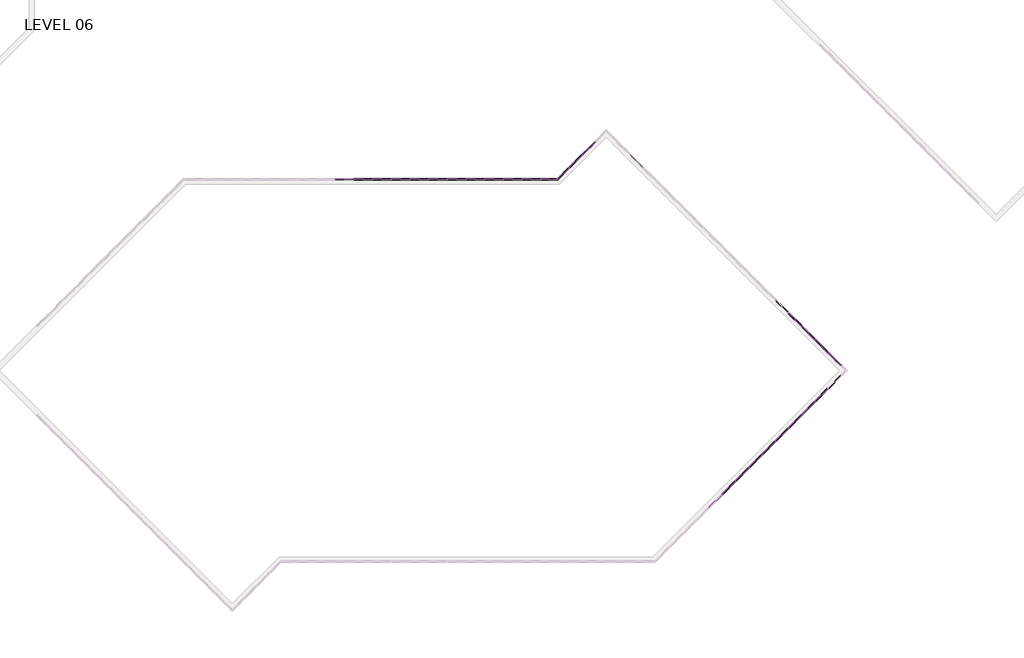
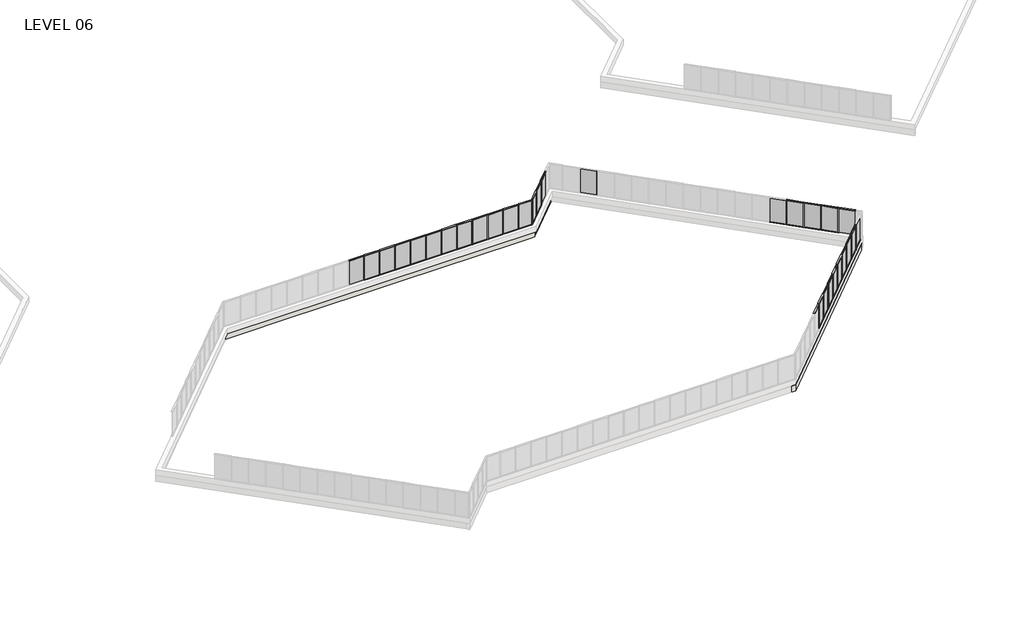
# One storey, part 8 of 17: 82 members, 30 plates, 3 walls.
"""IFC4 building model written with IfcOpenShell, lengths in millimetres."""

from ifc_helpers import new_model, si_unit, frame, origin, place, context, project, spatial, polyline, outline, extrude, faceted_brep, transform, mapped, element, save
from components import member_5247f267, member_e44af9ab, member_800970d4, member_45eb7f2e, plate_67294edd, plate_9c66726c, plate_129ab9d0

model = new_model("IFC4")

# Units and contexts
model_context = context("Model", 3, world=origin())
ifc_project = project(units=[si_unit("LENGTHUNIT", "METRE", prefix="MILLI")], contexts=[model_context])

# Site, building, storey
site = spatial("IfcSite", under=ifc_project)
building = spatial("IfcBuilding", under=site)
storey = spatial("IfcBuildingStorey", under=building, Name="LEVEL 06", Elevation=19596.1)

# Members
placement = place(None, origin())
member_shape = member_5247f267(model_context)
element("IfcMember", 1, ObjectType="Rectangular Mullion : 2\" x 4.5\" rectangular", at=placement, inside=storey, context=model_context, shape_type="MappedRepresentation", body=[
    mapped(member_shape, transform((55642.3943146, 1508.7210511, 19596.1), x_axis=(0.0, 0.0, -1.0), y_axis=(0.7071067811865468, -0.7071067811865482, 0.0), z_axis=(-0.7071067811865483, -0.7071067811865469, 0.0))),
])
element("IfcMember", 2, ObjectType="Rectangular Mullion : 2\" x 4.5\" rectangular", at=placement, inside=storey, context=model_context, shape_type="MappedRepresentation", body=[
    mapped(member_shape, transform((56720.0250491, 2586.3517856, 19596.1), x_axis=(0.0, 0.0, -1.0), y_axis=(0.7071067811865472, -0.7071067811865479, 0.0), z_axis=(-0.7071067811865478, -0.7071067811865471, 0.0))),
])
element("IfcMember", 3, ObjectType="Rectangular Mullion : 2\" x 4.5\" rectangular", at=placement, inside=storey, context=model_context, shape_type="MappedRepresentation", body=[
    mapped(member_shape, transform((57797.6557836, 3663.9825201, 19596.1), x_axis=(0.0, 0.0, -1.0), y_axis=(0.7071067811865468, -0.7071067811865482, 0.0), z_axis=(-0.7071067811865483, -0.7071067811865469, 0.0))),
])
element("IfcMember", 4, ObjectType="Rectangular Mullion : 2\" x 4.5\" rectangular", at=placement, inside=storey, context=model_context, shape_type="MappedRepresentation", body=[
    mapped(member_shape, transform((63185.8094563, 9052.1361928, 19596.1), x_axis=(0.0, 0.0, -1.0), y_axis=(0.7071067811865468, -0.7071067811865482, 0.0), z_axis=(-0.7071067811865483, -0.7071067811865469, 0.0))),
])
element("IfcMember", 5, ObjectType="Rectangular Mullion : 2\" x 4.5\" rectangular", at=placement, inside=storey, context=model_context, shape_type="MappedRepresentation", body=[
    mapped(member_shape, transform((54564.7635801, 431.0903165, 19596.1), x_axis=(0.0, 0.0, -1.0), y_axis=(0.7071067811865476, -0.7071067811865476, 0.0), z_axis=(-0.7071067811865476, -0.7071067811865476, 0.0))),
])
element("IfcMember", 6, ObjectType="Rectangular Mullion : 2\" x 4.5\" rectangular", at=placement, inside=storey, context=model_context, shape_type="MappedRepresentation", body=[
    mapped(member_shape, transform((59952.9172527, 5819.2439892, 19596.1), x_axis=(0.0, 0.0, -1.0), y_axis=(0.7071067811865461, -0.7071067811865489, 0.0), z_axis=(-0.7071067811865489, -0.7071067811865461, 0.0))),
])
element("IfcMember", 7, ObjectType="Rectangular Mullion : 2\" x 4.5\" rectangular", at=placement, inside=storey, context=model_context, shape_type="MappedRepresentation", body=[
    mapped(member_shape, transform((58875.2865182, 4741.6132547, 19596.1), x_axis=(0.0, 0.0, -1.0), y_axis=(0.7071067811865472, -0.7071067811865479, 0.0), z_axis=(-0.7071067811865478, -0.7071067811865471, 0.0))),
])
element("IfcMember", 8, ObjectType="Rectangular Mullion : 2\" x 4.5\" rectangular", at=placement, inside=storey, context=model_context, shape_type="MappedRepresentation", body=[
    mapped(member_shape, transform((61030.5479872, 6896.8747237, 19596.1), x_axis=(0.0, 0.0, -1.0), y_axis=(0.7071067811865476, -0.7071067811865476, 0.0), z_axis=(-0.7071067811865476, -0.7071067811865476, 0.0))),
])
element("IfcMember", 9, ObjectType="Rectangular Mullion : 2\" x 4.5\" rectangular", at=placement, inside=storey, context=model_context, shape_type="MappedRepresentation", body=[
    mapped(member_shape, transform((62108.1787218, 7974.5054582, 19596.1), x_axis=(0.0, 0.0, -1.0), y_axis=(0.7071067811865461, -0.7071067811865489, 0.0), z_axis=(-0.7071067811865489, -0.7071067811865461, 0.0))),
])
element("IfcMember", 10, ObjectType="Rectangular Mullion : 2\" x 4.5\" rectangular", at=placement, inside=storey, context=model_context, shape_type="MappedRepresentation", body=[
    mapped(member_shape, transform((63149.7097592, 11972.0792486, 19596.1), x_axis=(0.0, 0.0, -1.0), y_axis=(0.707106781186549, 0.7071067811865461, 0.0), z_axis=(0.707106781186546, -0.7071067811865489, 0.0))),
])
element("IfcMember", 11, ObjectType="Rectangular Mullion : 2\" x 4.5\" rectangular", at=placement, inside=storey, context=model_context, shape_type="MappedRepresentation", body=[
    mapped(member_shape, transform((62072.0790246, 13049.7099831, 19596.1), x_axis=(0.0, 0.0, -1.0), y_axis=(0.7071067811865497, 0.7071067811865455, 0.0), z_axis=(0.7071067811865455, -0.7071067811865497, 0.0))),
])
element("IfcMember", 12, ObjectType="Rectangular Mullion : 2\" x 4.5\" rectangular", at=placement, inside=storey, context=model_context, shape_type="MappedRepresentation", body=[
    mapped(member_shape, transform((60994.4482901, 14127.3407176, 19596.1), x_axis=(0.0, 0.0, -1.0), y_axis=(0.707106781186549, 0.7071067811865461, 0.0), z_axis=(0.707106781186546, -0.7071067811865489, 0.0))),
])
element("IfcMember", 13, ObjectType="Rectangular Mullion : 2\" x 4.5\" rectangular", at=placement, inside=storey, context=model_context, shape_type="MappedRepresentation", body=[
    mapped(member_shape, transform((59916.8175556, 15204.9714522, 19596.1), x_axis=(0.0, 0.0, -1.0), y_axis=(0.707106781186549, 0.7071067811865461, 0.0), z_axis=(0.707106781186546, -0.7071067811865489, 0.0))),
])
element("IfcMember", 14, ObjectType="Rectangular Mullion : 2\" x 4.5\" rectangular", at=placement, inside=storey, context=model_context, shape_type="MappedRepresentation", body=[
    mapped(member_shape, transform((43110.3767799, 28100.2657877, 19596.1), x_axis=(0.0, 0.0, -1.0), y_axis=(-0.7071067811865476, 0.7071067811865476, 0.0), z_axis=(0.7071067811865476, 0.7071067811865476, 0.0))),
])
element("IfcMember", 15, ObjectType="Rectangular Mullion : 2\" x 4.5\" rectangular", at=placement, inside=storey, context=model_context, shape_type="MappedRepresentation", body=[
    mapped(member_shape, transform((24517.35, 26080.1328721, 19596.1), x_axis=(0.0, 0.0, -1.0), y_axis=(0.0, -1.0, 0.0), z_axis=(-1.0, 0.0, 0.0))),
])
element("IfcMember", 16, ObjectType="Rectangular Mullion : 2\" x 4.5\" rectangular", at=placement, inside=storey, context=model_context, shape_type="MappedRepresentation", body=[
    mapped(member_shape, transform((27565.35, 26080.1328721, 19596.1), x_axis=(0.0, 0.0, -1.0), y_axis=(0.0, -1.0, 0.0), z_axis=(-1.0, 0.0, 0.0))),
])
element("IfcMember", 17, ObjectType="Rectangular Mullion : 2\" x 4.5\" rectangular", at=placement, inside=storey, context=model_context, shape_type="MappedRepresentation", body=[
    mapped(member_shape, transform((29089.35, 26080.1328721, 19596.1), x_axis=(0.0, 0.0, -1.0), y_axis=(0.0, -1.0, 0.0), z_axis=(-1.0, 0.0, 0.0))),
])
element("IfcMember", 18, ObjectType="Rectangular Mullion : 2\" x 4.5\" rectangular", at=placement, inside=storey, context=model_context, shape_type="MappedRepresentation", body=[
    mapped(member_shape, transform((30613.35, 26080.1328721, 19596.1), x_axis=(0.0, 0.0, -1.0), y_axis=(0.0, -1.0, 0.0), z_axis=(-1.0, 0.0, 0.0))),
])
element("IfcMember", 19, ObjectType="Rectangular Mullion : 2\" x 4.5\" rectangular", at=placement, inside=storey, context=model_context, shape_type="MappedRepresentation", body=[
    mapped(member_shape, transform((32137.35, 26080.1328721, 19596.1), x_axis=(0.0, 0.0, -1.0), y_axis=(0.0, -1.0, 0.0), z_axis=(-1.0, 0.0, 0.0))),
])
element("IfcMember", 20, ObjectType="Rectangular Mullion : 2\" x 4.5\" rectangular", at=placement, inside=storey, context=model_context, shape_type="MappedRepresentation", body=[
    mapped(member_shape, transform((35185.35, 26080.1328721, 19596.1), x_axis=(0.0, 0.0, -1.0), y_axis=(0.0, -1.0, 0.0), z_axis=(-1.0, 0.0, 0.0))),
])
element("IfcMember", 21, ObjectType="Rectangular Mullion : 2\" x 4.5\" rectangular", at=placement, inside=storey, context=model_context, shape_type="MappedRepresentation", body=[
    mapped(member_shape, transform((36709.35, 26080.1328721, 19596.1), x_axis=(0.0, 0.0, -1.0), y_axis=(0.0, -1.0, 0.0), z_axis=(-1.0, 0.0, 0.0))),
])
element("IfcMember", 22, ObjectType="Rectangular Mullion : 2\" x 4.5\" rectangular", at=placement, inside=storey, context=model_context, shape_type="MappedRepresentation", body=[
    mapped(member_shape, transform((38233.35, 26080.1328721, 19596.1), x_axis=(0.0, 0.0, -1.0), y_axis=(0.0, -1.0, 0.0), z_axis=(-1.0, 0.0, 0.0))),
])
element("IfcMember", 23, ObjectType="Rectangular Mullion : 2\" x 4.5\" rectangular", at=placement, inside=storey, context=model_context, shape_type="MappedRepresentation", body=[
    mapped(member_shape, transform((33661.35, 26080.1328721, 19596.1), x_axis=(0.0, 0.0, -1.0), y_axis=(0.0, -1.0, 0.0), z_axis=(-1.0, 0.0, 0.0))),
])
element("IfcMember", 24, ObjectType="Rectangular Mullion : 2\" x 4.5\" rectangular", at=placement, inside=storey, context=model_context, shape_type="MappedRepresentation", body=[
    mapped(member_shape, transform((26041.35, 26080.1328721, 19596.1), x_axis=(0.0, 0.0, -1.0), y_axis=(0.0, -1.0, 0.0), z_axis=(-1.0, 0.0, 0.0))),
])
element("IfcMember", 25, ObjectType="Rectangular Mullion : 2\" x 4.5\" rectangular", at=placement, inside=storey, context=model_context, shape_type="MappedRepresentation", body=[
    mapped(member_shape, transform((55606.4732901, 1472.8000266, 22186.9), x_axis=(0.0, 0.0, 1.0), y_axis=(0.7071067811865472, -0.7071067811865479, 0.0), z_axis=(0.7071067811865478, 0.7071067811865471, 0.0))),
])
element("IfcMember", 26, ObjectType="Rectangular Mullion : 2\" x 4.5\" rectangular", at=placement, inside=storey, context=model_context, shape_type="MappedRepresentation", body=[
    mapped(member_shape, transform((56684.1040246, 2550.4307611, 22186.9), x_axis=(0.0, 0.0, 1.0), y_axis=(0.7071067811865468, -0.7071067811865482, 0.0), z_axis=(0.7071067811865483, 0.7071067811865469, 0.0))),
])
element("IfcMember", 27, ObjectType="Rectangular Mullion : 2\" x 4.5\" rectangular", at=placement, inside=storey, context=model_context, shape_type="MappedRepresentation", body=[
    mapped(member_shape, transform((57761.7347592, 3628.0614956, 22186.9), x_axis=(0.0, 0.0, 1.0), y_axis=(0.7071067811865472, -0.7071067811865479, 0.0), z_axis=(0.7071067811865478, 0.7071067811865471, 0.0))),
])
element("IfcMember", 28, ObjectType="Rectangular Mullion : 2\" x 4.5\" rectangular", at=placement, inside=storey, context=model_context, shape_type="MappedRepresentation", body=[
    mapped(member_shape, transform((63149.8884318, 9016.2151683, 22186.9), x_axis=(0.0, 0.0, 1.0), y_axis=(0.7071067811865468, -0.7071067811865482, 0.0), z_axis=(0.7071067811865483, 0.7071067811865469, 0.0))),
])
element("IfcMember", 29, ObjectType="Rectangular Mullion : 2\" x 4.5\" rectangular", at=placement, inside=storey, context=model_context, shape_type="MappedRepresentation", body=[
    mapped(member_shape, transform((54528.8425556, 395.1692921, 22186.9), x_axis=(0.0, 0.0, 1.0), y_axis=(0.7071067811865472, -0.7071067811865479, 0.0), z_axis=(0.7071067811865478, 0.7071067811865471, 0.0))),
])
element("IfcMember", 30, ObjectType="Rectangular Mullion : 2\" x 4.5\" rectangular", at=placement, inside=storey, context=model_context, shape_type="MappedRepresentation", body=[
    mapped(member_shape, transform((59916.9962282, 5783.3229647, 22186.9), x_axis=(0.0, 0.0, 1.0), y_axis=(0.7071067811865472, -0.7071067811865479, 0.0), z_axis=(0.7071067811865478, 0.7071067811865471, 0.0))),
])
element("IfcMember", 31, ObjectType="Rectangular Mullion : 2\" x 4.5\" rectangular", at=placement, inside=storey, context=model_context, shape_type="MappedRepresentation", body=[
    mapped(member_shape, transform((58839.3654937, 4705.6922302, 22186.9), x_axis=(0.0, 0.0, 1.0), y_axis=(0.7071067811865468, -0.7071067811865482, 0.0), z_axis=(0.7071067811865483, 0.7071067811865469, 0.0))),
])
element("IfcMember", 32, ObjectType="Rectangular Mullion : 2\" x 4.5\" rectangular", at=placement, inside=storey, context=model_context, shape_type="MappedRepresentation", body=[
    mapped(member_shape, transform((60994.6269627, 6860.9536992, 22186.9), x_axis=(0.0, 0.0, 1.0), y_axis=(0.7071067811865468, -0.7071067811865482, 0.0), z_axis=(0.7071067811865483, 0.7071067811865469, 0.0))),
])
element("IfcMember", 33, ObjectType="Rectangular Mullion : 2\" x 4.5\" rectangular", at=placement, inside=storey, context=model_context, shape_type="MappedRepresentation", body=[
    mapped(member_shape, transform((62072.2576973, 7938.5844338, 22186.9), x_axis=(0.0, 0.0, 1.0), y_axis=(0.7071067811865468, -0.7071067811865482, 0.0), z_axis=(0.7071067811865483, 0.7071067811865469, 0.0))),
])
element("IfcMember", 34, ObjectType="Rectangular Mullion : 2\" x 4.5\" rectangular", at=placement, inside=storey, context=model_context, shape_type="MappedRepresentation", body=[
    mapped(member_shape, transform((63185.6307836, 11936.1582241, 22186.9), x_axis=(0.0, 0.0, 1.0), y_axis=(0.707106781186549, 0.7071067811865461, 0.0), z_axis=(-0.707106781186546, 0.7071067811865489, 0.0))),
])
element("IfcMember", 35, ObjectType="Rectangular Mullion : 2\" x 4.5\" rectangular", at=placement, inside=storey, context=model_context, shape_type="MappedRepresentation", body=[
    mapped(member_shape, transform((62108.0000491, 13013.7889586, 22186.9), x_axis=(0.0, 0.0, 1.0), y_axis=(0.7071067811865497, 0.7071067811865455, 0.0), z_axis=(-0.7071067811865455, 0.7071067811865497, 0.0))),
])
element("IfcMember", 36, ObjectType="Rectangular Mullion : 2\" x 4.5\" rectangular", at=placement, inside=storey, context=model_context, shape_type="MappedRepresentation", body=[
    mapped(member_shape, transform((61030.3693146, 14091.4196932, 22186.9), x_axis=(0.0, 0.0, 1.0), y_axis=(0.7071067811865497, 0.7071067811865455, 0.0), z_axis=(-0.7071067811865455, 0.7071067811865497, 0.0))),
])
element("IfcMember", 37, ObjectType="Rectangular Mullion : 2\" x 4.5\" rectangular", at=placement, inside=storey, context=model_context, shape_type="MappedRepresentation", body=[
    mapped(member_shape, transform((59952.7385801, 15169.0504277, 22186.9), x_axis=(0.0, 0.0, 1.0), y_axis=(0.707106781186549, 0.7071067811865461, 0.0), z_axis=(-0.707106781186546, 0.7071067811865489, 0.0))),
])
element("IfcMember", 38, ObjectType="Rectangular Mullion : 2\" x 4.5\" rectangular", at=placement, inside=storey, context=model_context, shape_type="MappedRepresentation", body=[
    mapped(member_shape, transform((42068.6670699, 27058.5560776, 22186.9), x_axis=(0.0, 0.0, 1.0), y_axis=(-0.7071067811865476, 0.7071067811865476, 0.0), z_axis=(-0.7071067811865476, -0.7071067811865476, 0.0))),
])
element("IfcMember", 39, ObjectType="Rectangular Mullion : 2\" x 4.5\" rectangular", at=placement, inside=storey, context=model_context, shape_type="MappedRepresentation", body=[
    mapped(member_shape, transform((43146.2978044, 28136.1868122, 22186.9), x_axis=(0.0, 0.0, 1.0), y_axis=(-0.7071067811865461, 0.7071067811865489, 0.0), z_axis=(-0.7071067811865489, -0.7071067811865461, 0.0))),
])
element("IfcMember", 40, ObjectType="Rectangular Mullion : 2\" x 4.5\" rectangular", at=placement, inside=storey, context=model_context, shape_type="MappedRepresentation", body=[
    mapped(member_shape, transform((24466.55, 26080.1328721, 22186.9), x_axis=(0.0, 0.0, 1.0), y_axis=(0.0, -1.0, 0.0), z_axis=(1.0, 0.0, 0.0))),
])
element("IfcMember", 41, ObjectType="Rectangular Mullion : 2\" x 4.5\" rectangular", at=placement, inside=storey, context=model_context, shape_type="MappedRepresentation", body=[
    mapped(member_shape, transform((27514.55, 26080.1328721, 22186.9), x_axis=(0.0, 0.0, 1.0), y_axis=(0.0, -1.0, 0.0), z_axis=(1.0, 0.0, 0.0))),
])
element("IfcMember", 42, ObjectType="Rectangular Mullion : 2\" x 4.5\" rectangular", at=placement, inside=storey, context=model_context, shape_type="MappedRepresentation", body=[
    mapped(member_shape, transform((29038.55, 26080.1328721, 22186.9), x_axis=(0.0, 0.0, 1.0), y_axis=(0.0, -1.0, 0.0), z_axis=(1.0, 0.0, 0.0))),
])
element("IfcMember", 43, ObjectType="Rectangular Mullion : 2\" x 4.5\" rectangular", at=placement, inside=storey, context=model_context, shape_type="MappedRepresentation", body=[
    mapped(member_shape, transform((30562.55, 26080.1328721, 22186.9), x_axis=(0.0, 0.0, 1.0), y_axis=(0.0, -1.0, 0.0), z_axis=(1.0, 0.0, 0.0))),
])
element("IfcMember", 44, ObjectType="Rectangular Mullion : 2\" x 4.5\" rectangular", at=placement, inside=storey, context=model_context, shape_type="MappedRepresentation", body=[
    mapped(member_shape, transform((32086.55, 26080.1328721, 22186.9), x_axis=(0.0, 0.0, 1.0), y_axis=(0.0, -1.0, 0.0), z_axis=(1.0, 0.0, 0.0))),
])
element("IfcMember", 45, ObjectType="Rectangular Mullion : 2\" x 4.5\" rectangular", at=placement, inside=storey, context=model_context, shape_type="MappedRepresentation", body=[
    mapped(member_shape, transform((35134.55, 26080.1328721, 22186.9), x_axis=(0.0, 0.0, 1.0), y_axis=(0.0, -1.0, 0.0), z_axis=(1.0, 0.0, 0.0))),
])
element("IfcMember", 46, ObjectType="Rectangular Mullion : 2\" x 4.5\" rectangular", at=placement, inside=storey, context=model_context, shape_type="MappedRepresentation", body=[
    mapped(member_shape, transform((36658.55, 26080.1328721, 22186.9), x_axis=(0.0, 0.0, 1.0), y_axis=(0.0, -1.0, 0.0), z_axis=(1.0, 0.0, 0.0))),
])
element("IfcMember", 47, ObjectType="Rectangular Mullion : 2\" x 4.5\" rectangular", at=placement, inside=storey, context=model_context, shape_type="MappedRepresentation", body=[
    mapped(member_shape, transform((38182.55, 26080.1328721, 22186.9), x_axis=(0.0, 0.0, 1.0), y_axis=(0.0, -1.0, 0.0), z_axis=(1.0, 0.0, 0.0))),
])
element("IfcMember", 48, ObjectType="Rectangular Mullion : 2\" x 4.5\" rectangular", at=placement, inside=storey, context=model_context, shape_type="MappedRepresentation", body=[
    mapped(member_shape, transform((39706.55, 26080.1328721, 22186.9), x_axis=(0.0, 0.0, 1.0), y_axis=(0.0, -1.0, 0.0), z_axis=(1.0, 0.0, 0.0))),
])
element("IfcMember", 49, ObjectType="Rectangular Mullion : 2\" x 4.5\" rectangular", at=placement, inside=storey, context=model_context, shape_type="MappedRepresentation", body=[
    mapped(member_shape, transform((33610.55, 26080.1328721, 22186.9), x_axis=(0.0, 0.0, 1.0), y_axis=(0.0, -1.0, 0.0), z_axis=(1.0, 0.0, 0.0))),
])
element("IfcMember", 50, ObjectType="Rectangular Mullion : 2\" x 4.5\" rectangular", at=placement, inside=storey, context=model_context, shape_type="MappedRepresentation", body=[
    mapped(member_shape, transform((25990.55, 26080.1328721, 22186.9), x_axis=(0.0, 0.0, 1.0), y_axis=(0.0, -1.0, 0.0), z_axis=(1.0, 0.0, 0.0))),
])
member_2_shape = member_e44af9ab(model_context)
element("IfcMember", 51, ObjectType="Rectangular Mullion : 2\" x 4.5\" rectangular", at=placement, inside=storey, context=model_context, shape_type="MappedRepresentation", body=[
    mapped(member_2_shape, transform((55624.4338023, 1490.7605388, 19596.1), x_axis=(0.7071067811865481, 0.7071067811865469, 0.0), y_axis=(0.7071067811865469, -0.7071067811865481, 0.0), z_axis=(0.0, 0.0, -1.0))),
])
element("IfcMember", 52, ObjectType="Rectangular Mullion : 2\" x 4.5\" rectangular", at=placement, inside=storey, context=model_context, shape_type="MappedRepresentation", body=[
    mapped(member_2_shape, transform((56702.0645369, 2568.3912734, 19596.1), x_axis=(0.7071067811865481, 0.7071067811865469, 0.0), y_axis=(0.7071067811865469, -0.7071067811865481, 0.0), z_axis=(0.0, 0.0, -1.0))),
])
element("IfcMember", 53, ObjectType="Rectangular Mullion : 2\" x 4.5\" rectangular", at=placement, inside=storey, context=model_context, shape_type="MappedRepresentation", body=[
    mapped(member_2_shape, transform((57779.6952714, 3646.0220079, 19596.1), x_axis=(0.7071067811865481, 0.7071067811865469, 0.0), y_axis=(0.7071067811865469, -0.7071067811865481, 0.0), z_axis=(0.0, 0.0, -1.0))),
])
element("IfcMember", 54, ObjectType="Rectangular Mullion : 2\" x 4.5\" rectangular", at=placement, inside=storey, context=model_context, shape_type="MappedRepresentation", body=[
    mapped(member_2_shape, transform((63167.848944, 9034.1756805, 19596.1), x_axis=(0.7071067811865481, 0.7071067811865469, 0.0), y_axis=(0.7071067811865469, -0.7071067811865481, 0.0), z_axis=(0.0, 0.0, -1.0))),
])
element("IfcMember", 55, ObjectType="Rectangular Mullion : 2\" x 4.5\" rectangular", at=placement, inside=storey, context=model_context, shape_type="MappedRepresentation", body=[
    mapped(member_2_shape, transform((54546.8030678, 413.1298043, 19596.1), x_axis=(0.7071067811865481, 0.7071067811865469, 0.0), y_axis=(0.7071067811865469, -0.7071067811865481, 0.0), z_axis=(0.0, 0.0, -1.0))),
])
element("IfcMember", 56, ObjectType="Rectangular Mullion : 2\" x 4.5\" rectangular", at=placement, inside=storey, context=model_context, shape_type="MappedRepresentation", body=[
    mapped(member_2_shape, transform((59934.9567405, 5801.2834769, 19596.1), x_axis=(0.7071067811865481, 0.7071067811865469, 0.0), y_axis=(0.7071067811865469, -0.7071067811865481, 0.0), z_axis=(0.0, 0.0, -1.0))),
])
element("IfcMember", 57, ObjectType="Rectangular Mullion : 2\" x 4.5\" rectangular", at=placement, inside=storey, context=model_context, shape_type="MappedRepresentation", body=[
    mapped(member_2_shape, transform((58857.3260059, 4723.6527424, 19596.1), x_axis=(0.7071067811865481, 0.7071067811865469, 0.0), y_axis=(0.7071067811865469, -0.7071067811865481, 0.0), z_axis=(0.0, 0.0, -1.0))),
])
element("IfcMember", 58, ObjectType="Rectangular Mullion : 2\" x 4.5\" rectangular", at=placement, inside=storey, context=model_context, shape_type="MappedRepresentation", body=[
    mapped(member_2_shape, transform((61012.587475, 6878.9142115, 19596.1), x_axis=(0.7071067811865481, 0.7071067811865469, 0.0), y_axis=(0.7071067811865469, -0.7071067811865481, 0.0), z_axis=(0.0, 0.0, -1.0))),
])
element("IfcMember", 59, ObjectType="Rectangular Mullion : 2\" x 4.5\" rectangular", at=placement, inside=storey, context=model_context, shape_type="MappedRepresentation", body=[
    mapped(member_2_shape, transform((62090.2182095, 7956.544946, 19596.1), x_axis=(0.7071067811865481, 0.7071067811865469, 0.0), y_axis=(0.7071067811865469, -0.7071067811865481, 0.0), z_axis=(0.0, 0.0, -1.0))),
])
element("IfcMember", 60, ObjectType="Rectangular Mullion : 2\" x 4.5\" rectangular", at=placement, inside=storey, context=model_context, shape_type="MappedRepresentation", body=[
    mapped(member_2_shape, transform((63167.6702714, 11954.1187363, 19596.1), x_axis=(-0.7071067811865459, 0.7071067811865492, 0.0), y_axis=(0.7071067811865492, 0.7071067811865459, 0.0), z_axis=(0.0, 0.0, -1.0))),
])
element("IfcMember", 61, ObjectType="Rectangular Mullion : 2\" x 4.5\" rectangular", at=placement, inside=storey, context=model_context, shape_type="MappedRepresentation", body=[
    mapped(member_2_shape, transform((62090.0395369, 13031.7494709, 19596.1), x_axis=(-0.7071067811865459, 0.7071067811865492, 0.0), y_axis=(0.7071067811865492, 0.7071067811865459, 0.0), z_axis=(0.0, 0.0, -1.0))),
])
element("IfcMember", 62, ObjectType="Rectangular Mullion : 2\" x 4.5\" rectangular", at=placement, inside=storey, context=model_context, shape_type="MappedRepresentation", body=[
    mapped(member_2_shape, transform((61012.4088023, 14109.3802054, 19596.1), x_axis=(-0.7071067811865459, 0.7071067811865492, 0.0), y_axis=(0.7071067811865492, 0.7071067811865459, 0.0), z_axis=(0.0, 0.0, -1.0))),
])
element("IfcMember", 63, ObjectType="Rectangular Mullion : 2\" x 4.5\" rectangular", at=placement, inside=storey, context=model_context, shape_type="MappedRepresentation", body=[
    mapped(member_2_shape, transform((59934.7780678, 15187.0109399, 19596.1), x_axis=(-0.7071067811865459, 0.7071067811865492, 0.0), y_axis=(0.7071067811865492, 0.7071067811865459, 0.0), z_axis=(0.0, 0.0, -1.0))),
])
element("IfcMember", 64, ObjectType="Rectangular Mullion : 2\" x 4.5\" rectangular", at=placement, inside=storey, context=model_context, shape_type="MappedRepresentation", body=[
    mapped(member_2_shape, transform((42050.7065576, 27040.5955654, 19596.1), x_axis=(-0.7071067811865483, -0.7071067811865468, 0.0), y_axis=(-0.7071067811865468, 0.7071067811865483, 0.0), z_axis=(0.0, 0.0, -1.0))),
])
element("IfcMember", 65, ObjectType="Rectangular Mullion : 2\" x 4.5\" rectangular", at=placement, inside=storey, context=model_context, shape_type="MappedRepresentation", body=[
    mapped(member_2_shape, transform((43128.3372922, 28118.2262999, 19596.1), x_axis=(-0.7071067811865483, -0.7071067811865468, 0.0), y_axis=(-0.7071067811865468, 0.7071067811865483, 0.0), z_axis=(0.0, 0.0, -1.0))),
])
element("IfcMember", 66, ObjectType="Rectangular Mullion : 2\" x 4.5\" rectangular", at=placement, inside=storey, context=model_context, shape_type="MappedRepresentation", body=[
    mapped(member_2_shape, transform((24491.95, 26080.1328721, 19596.1), x_axis=(1.0, 0.0, 0.0), y_axis=(0.0, -1.0, 0.0), z_axis=(0.0, 0.0, -1.0))),
])
element("IfcMember", 67, ObjectType="Rectangular Mullion : 2\" x 4.5\" rectangular", at=placement, inside=storey, context=model_context, shape_type="MappedRepresentation", body=[
    mapped(member_2_shape, transform((27539.95, 26080.1328721, 19596.1), x_axis=(1.0, 0.0, 0.0), y_axis=(0.0, -1.0, 0.0), z_axis=(0.0, 0.0, -1.0))),
])
element("IfcMember", 68, ObjectType="Rectangular Mullion : 2\" x 4.5\" rectangular", at=placement, inside=storey, context=model_context, shape_type="MappedRepresentation", body=[
    mapped(member_2_shape, transform((29063.95, 26080.1328721, 19596.1), x_axis=(1.0, 0.0, 0.0), y_axis=(0.0, -1.0, 0.0), z_axis=(0.0, 0.0, -1.0))),
])
element("IfcMember", 69, ObjectType="Rectangular Mullion : 2\" x 4.5\" rectangular", at=placement, inside=storey, context=model_context, shape_type="MappedRepresentation", body=[
    mapped(member_2_shape, transform((30587.95, 26080.1328721, 19596.1), x_axis=(1.0, 0.0, 0.0), y_axis=(0.0, -1.0, 0.0), z_axis=(0.0, 0.0, -1.0))),
])
element("IfcMember", 70, ObjectType="Rectangular Mullion : 2\" x 4.5\" rectangular", at=placement, inside=storey, context=model_context, shape_type="MappedRepresentation", body=[
    mapped(member_2_shape, transform((32111.95, 26080.1328721, 19596.1), x_axis=(1.0, 0.0, 0.0), y_axis=(0.0, -1.0, 0.0), z_axis=(0.0, 0.0, -1.0))),
])
element("IfcMember", 71, ObjectType="Rectangular Mullion : 2\" x 4.5\" rectangular", at=placement, inside=storey, context=model_context, shape_type="MappedRepresentation", body=[
    mapped(member_2_shape, transform((35159.95, 26080.1328721, 19596.1), x_axis=(1.0, 0.0, 0.0), y_axis=(0.0, -1.0, 0.0), z_axis=(0.0, 0.0, -1.0))),
])
element("IfcMember", 72, ObjectType="Rectangular Mullion : 2\" x 4.5\" rectangular", at=placement, inside=storey, context=model_context, shape_type="MappedRepresentation", body=[
    mapped(member_2_shape, transform((36683.95, 26080.1328721, 19596.1), x_axis=(1.0, 0.0, 0.0), y_axis=(0.0, -1.0, 0.0), z_axis=(0.0, 0.0, -1.0))),
])
element("IfcMember", 73, ObjectType="Rectangular Mullion : 2\" x 4.5\" rectangular", at=placement, inside=storey, context=model_context, shape_type="MappedRepresentation", body=[
    mapped(member_2_shape, transform((38207.95, 26080.1328721, 19596.1), x_axis=(1.0, 0.0, 0.0), y_axis=(0.0, -1.0, 0.0), z_axis=(0.0, 0.0, -1.0))),
])
element("IfcMember", 74, ObjectType="Rectangular Mullion : 2\" x 4.5\" rectangular", at=placement, inside=storey, context=model_context, shape_type="MappedRepresentation", body=[
    mapped(member_2_shape, transform((39731.95, 26080.1328721, 19596.1), x_axis=(1.0, 0.0, 0.0), y_axis=(0.0, -1.0, 0.0), z_axis=(0.0, 0.0, -1.0))),
])
element("IfcMember", 75, ObjectType="Rectangular Mullion : 2\" x 4.5\" rectangular", at=placement, inside=storey, context=model_context, shape_type="MappedRepresentation", body=[
    mapped(member_2_shape, transform((33635.95, 26080.1328721, 19596.1), x_axis=(1.0, 0.0, 0.0), y_axis=(0.0, -1.0, 0.0), z_axis=(0.0, 0.0, -1.0))),
])
element("IfcMember", 76, ObjectType="Rectangular Mullion : 2\" x 4.5\" rectangular", at=placement, inside=storey, context=model_context, shape_type="MappedRepresentation", body=[
    mapped(member_2_shape, transform((26015.95, 26080.1328721, 19596.1), x_axis=(1.0, 0.0, 0.0), y_axis=(0.0, -1.0, 0.0), z_axis=(0.0, 0.0, -1.0))),
])
member_3_shape = member_800970d4(model_context)
element("IfcMember", 77, ObjectType="Rectangular Mullion : 2\" x 4.5\" rectangular", at=placement, inside=storey, context=model_context, shape_type="MappedRepresentation", body=[
    mapped(member_3_shape, transform((41090.2438644, 26080.1328721, 19596.1), x_axis=(-0.7071067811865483, -0.7071067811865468, 0.0), y_axis=(-0.7071067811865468, 0.7071067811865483, 0.0), z_axis=(0.0, 0.0, -1.0))),
])
element("IfcMember", 78, ObjectType="Rectangular Mullion : 2\" x 4.5\" rectangular", at=placement, inside=storey, context=model_context, shape_type="MappedRepresentation", body=[
    mapped(member_3_shape, transform((41090.2438644, 26080.1328721, 19596.1), x_axis=(1.0, 0.0, 0.0), y_axis=(0.0, -1.0, 0.0), z_axis=(0.0, 0.0, -1.0))),
])
member_4_shape = member_45eb7f2e(model_context)
element("IfcMember", 79, ObjectType="Rectangular Mullion : 2\" x 4.5\" rectangular", at=placement, inside=storey, context=model_context, shape_type="MappedRepresentation", body=[
    mapped(member_4_shape, transform((41126.1648889, 26116.0538966, 22186.9), x_axis=(0.0, 0.0, 1.0), y_axis=(-0.7071067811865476, 0.7071067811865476, 0.0), z_axis=(-0.7071067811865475, -0.7071067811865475, 0.0))),
])
element("IfcMember", 80, ObjectType="Rectangular Mullion : 2\" x 4.5\" rectangular", at=placement, inside=storey, context=model_context, shape_type="MappedRepresentation", body=[
    mapped(member_4_shape, transform((41039.4438644, 26080.1328721, 22186.9), x_axis=(0.0, 0.0, 1.0), y_axis=(0.0, -1.0, 0.0), z_axis=(1.0, 0.0, 0.0))),
])
element("IfcMember", 81, ObjectType="Rectangular Mullion : 2\" x 4.5\" rectangular", at=placement, inside=storey, context=model_context, shape_type="MappedRepresentation", body=[
    mapped(member_4_shape, transform((42032.7460454, 27022.6350531, 19596.1), x_axis=(0.0, 0.0, -1.0), y_axis=(-0.7071067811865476, 0.7071067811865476, 0.0), z_axis=(0.7071067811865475, 0.7071067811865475, 0.0))),
])
element("IfcMember", 82, ObjectType="Rectangular Mullion : 2\" x 4.5\" rectangular", at=placement, inside=storey, context=model_context, shape_type="MappedRepresentation", body=[
    mapped(member_4_shape, transform((39757.35, 26080.1328721, 19596.1), x_axis=(0.0, 0.0, -1.0), y_axis=(0.0, -1.0, 0.0), z_axis=(-1.0, 0.0, 0.0))),
])

# Plates
plate_shape = plate_67294edd(model_context)
element("IfcPlate", 83, ObjectType="System Panel : 1/4\" Glass", at=placement, inside=storey, context=model_context, shape_type="MappedRepresentation", body=[
    mapped(plate_shape, transform((56163.2491696, 2029.5759061, 19646.9), x_axis=(0.7071067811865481, 0.7071067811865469, 0.0), y_axis=(-0.7071067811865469, 0.7071067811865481, 0.0), z_axis=(0.0, 0.0, 1.0))),
])
element("IfcPlate", 84, ObjectType="System Panel : 1/4\" Glass", at=placement, inside=storey, context=model_context, shape_type="MappedRepresentation", body=[
    mapped(plate_shape, transform((57240.8799041, 3107.2066406, 19646.9), x_axis=(0.7071067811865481, 0.7071067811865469, 0.0), y_axis=(-0.7071067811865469, 0.7071067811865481, 0.0), z_axis=(0.0, 0.0, 1.0))),
])
element("IfcPlate", 85, ObjectType="System Panel : 1/4\" Glass", at=placement, inside=storey, context=model_context, shape_type="MappedRepresentation", body=[
    mapped(plate_shape, transform((58318.5106387, 4184.8373752, 19646.9), x_axis=(0.7071067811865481, 0.7071067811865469, 0.0), y_axis=(-0.7071067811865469, 0.7071067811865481, 0.0), z_axis=(0.0, 0.0, 1.0))),
])
element("IfcPlate", 86, ObjectType="System Panel : 1/4\" Glass", at=placement, inside=storey, context=model_context, shape_type="MappedRepresentation", body=[
    mapped(plate_shape, transform((63706.6643113, 9572.9910478, 19646.9), x_axis=(0.7071067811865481, 0.7071067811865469, 0.0), y_axis=(-0.7071067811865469, 0.7071067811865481, 0.0), z_axis=(0.0, 0.0, 1.0))),
])
element("IfcPlate", 87, ObjectType="System Panel : 1/4\" Glass", at=placement, inside=storey, context=model_context, shape_type="MappedRepresentation", body=[
    mapped(plate_shape, transform((55085.6184351, 951.9451716, 19646.9), x_axis=(0.7071067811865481, 0.7071067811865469, 0.0), y_axis=(-0.7071067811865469, 0.7071067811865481, 0.0), z_axis=(0.0, 0.0, 1.0))),
])
element("IfcPlate", 88, ObjectType="System Panel : 1/4\" Glass", at=placement, inside=storey, context=model_context, shape_type="MappedRepresentation", body=[
    mapped(plate_shape, transform((60473.7721077, 6340.0988442, 19646.9), x_axis=(0.7071067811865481, 0.7071067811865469, 0.0), y_axis=(-0.7071067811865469, 0.7071067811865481, 0.0), z_axis=(0.0, 0.0, 1.0))),
])
element("IfcPlate", 89, ObjectType="System Panel : 1/4\" Glass", at=placement, inside=storey, context=model_context, shape_type="MappedRepresentation", body=[
    mapped(plate_shape, transform((59396.1413732, 5262.4681097, 19646.9), x_axis=(0.7071067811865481, 0.7071067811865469, 0.0), y_axis=(-0.7071067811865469, 0.7071067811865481, 0.0), z_axis=(0.0, 0.0, 1.0))),
])
element("IfcPlate", 90, ObjectType="System Panel : 1/4\" Glass", at=placement, inside=storey, context=model_context, shape_type="MappedRepresentation", body=[
    mapped(plate_shape, transform((61551.4028422, 7417.7295787, 19646.9), x_axis=(0.7071067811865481, 0.7071067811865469, 0.0), y_axis=(-0.7071067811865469, 0.7071067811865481, 0.0), z_axis=(0.0, 0.0, 1.0))),
])
element("IfcPlate", 91, ObjectType="System Panel : 1/4\" Glass", at=placement, inside=storey, context=model_context, shape_type="MappedRepresentation", body=[
    mapped(plate_shape, transform((62629.0335768, 8495.3603133, 19646.9), x_axis=(0.7071067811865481, 0.7071067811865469, 0.0), y_axis=(-0.7071067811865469, 0.7071067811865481, 0.0), z_axis=(0.0, 0.0, 1.0))),
])
element("IfcPlate", 92, ObjectType="System Panel : 1/4\" Glass", at=placement, inside=storey, context=model_context, shape_type="MappedRepresentation", body=[
    mapped(plate_shape, transform((62628.8549041, 12492.9341036, 19646.9), x_axis=(-0.7071067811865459, 0.7071067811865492, 0.0), y_axis=(-0.7071067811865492, -0.7071067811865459, 0.0), z_axis=(0.0, 0.0, 1.0))),
])
element("IfcPlate", 93, ObjectType="System Panel : 1/4\" Glass", at=placement, inside=storey, context=model_context, shape_type="MappedRepresentation", body=[
    mapped(plate_shape, transform((61551.2241696, 13570.5648381, 19646.9), x_axis=(-0.7071067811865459, 0.7071067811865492, 0.0), y_axis=(-0.7071067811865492, -0.7071067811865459, 0.0), z_axis=(0.0, 0.0, 1.0))),
])
element("IfcPlate", 94, ObjectType="System Panel : 1/4\" Glass", at=placement, inside=storey, context=model_context, shape_type="MappedRepresentation", body=[
    mapped(plate_shape, transform((60473.5934351, 14648.1955727, 19646.9), x_axis=(-0.7071067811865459, 0.7071067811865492, 0.0), y_axis=(-0.7071067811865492, -0.7071067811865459, 0.0), z_axis=(0.0, 0.0, 1.0))),
])
element("IfcPlate", 95, ObjectType="System Panel : 1/4\" Glass", at=placement, inside=storey, context=model_context, shape_type="MappedRepresentation", body=[
    mapped(plate_shape, transform((59395.9627005, 15725.8263072, 19646.9), x_axis=(-0.7071067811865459, 0.7071067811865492, 0.0), y_axis=(-0.7071067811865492, -0.7071067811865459, 0.0), z_axis=(0.0, 0.0, 1.0))),
])
element("IfcPlate", 96, ObjectType="System Panel : 1/4\" Glass", at=placement, inside=storey, context=model_context, shape_type="MappedRepresentation", body=[
    mapped(plate_shape, transform((63706.4856387, 11415.3033691, 19646.9), x_axis=(-0.7071067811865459, 0.7071067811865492, 0.0), y_axis=(-0.7071067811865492, -0.7071067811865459, 0.0), z_axis=(0.0, 0.0, 1.0))),
])
element("IfcPlate", 97, ObjectType="System Panel : 1/4\" Glass", at=placement, inside=storey, context=model_context, shape_type="MappedRepresentation", body=[
    mapped(plate_shape, transform((47542.381966, 27579.4070417, 19646.9), x_axis=(-0.7071067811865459, 0.7071067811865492, 0.0), y_axis=(-0.7071067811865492, -0.7071067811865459, 0.0), z_axis=(0.0, 0.0, 1.0))),
])
element("IfcPlate", 98, ObjectType="System Panel : 1/4\" Glass", at=placement, inside=storey, context=model_context, shape_type="MappedRepresentation", body=[
    mapped(plate_shape, transform((43667.1526594, 28657.0416672, 19646.9), x_axis=(-0.7071067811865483, -0.7071067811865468, 0.0), y_axis=(0.7071067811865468, -0.7071067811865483, 0.0), z_axis=(0.0, 0.0, 1.0))),
])
element("IfcPlate", 99, ObjectType="System Panel : 1/4\" Glass", at=placement, inside=storey, context=model_context, shape_type="MappedRepresentation", body=[
    mapped(plate_shape, transform((42589.5219249, 27579.4109327, 19646.9), x_axis=(-0.7071067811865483, -0.7071067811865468, 0.0), y_axis=(0.7071067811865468, -0.7071067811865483, 0.0), z_axis=(0.0, 0.0, 1.0))),
])
element("IfcPlate", 100, ObjectType="System Panel : 1/4\" Glass", at=placement, inside=storey, context=model_context, shape_type="MappedRepresentation", body=[
    mapped(plate_shape, transform((23729.95, 26080.1328721, 19646.9), x_axis=(1.0, 0.0, 0.0), y_axis=(0.0, 1.0, 0.0), z_axis=(0.0, 0.0, 1.0))),
])
element("IfcPlate", 101, ObjectType="System Panel : 1/4\" Glass", at=placement, inside=storey, context=model_context, shape_type="MappedRepresentation", body=[
    mapped(plate_shape, transform((25253.95, 26080.1328721, 19646.9), x_axis=(1.0, 0.0, 0.0), y_axis=(0.0, 1.0, 0.0), z_axis=(0.0, 0.0, 1.0))),
])
element("IfcPlate", 102, ObjectType="System Panel : 1/4\" Glass", at=placement, inside=storey, context=model_context, shape_type="MappedRepresentation", body=[
    mapped(plate_shape, transform((28301.95, 26080.1328721, 19646.9), x_axis=(1.0, 0.0, 0.0), y_axis=(0.0, 1.0, 0.0), z_axis=(0.0, 0.0, 1.0))),
])
element("IfcPlate", 103, ObjectType="System Panel : 1/4\" Glass", at=placement, inside=storey, context=model_context, shape_type="MappedRepresentation", body=[
    mapped(plate_shape, transform((29825.95, 26080.1328721, 19646.9), x_axis=(1.0, 0.0, 0.0), y_axis=(0.0, 1.0, 0.0), z_axis=(0.0, 0.0, 1.0))),
])
element("IfcPlate", 104, ObjectType="System Panel : 1/4\" Glass", at=placement, inside=storey, context=model_context, shape_type="MappedRepresentation", body=[
    mapped(plate_shape, transform((31349.95, 26080.1328721, 19646.9), x_axis=(1.0, 0.0, 0.0), y_axis=(0.0, 1.0, 0.0), z_axis=(0.0, 0.0, 1.0))),
])
element("IfcPlate", 105, ObjectType="System Panel : 1/4\" Glass", at=placement, inside=storey, context=model_context, shape_type="MappedRepresentation", body=[
    mapped(plate_shape, transform((32873.95, 26080.1328721, 19646.9), x_axis=(1.0, 0.0, 0.0), y_axis=(0.0, 1.0, 0.0), z_axis=(0.0, 0.0, 1.0))),
])
element("IfcPlate", 106, ObjectType="System Panel : 1/4\" Glass", at=placement, inside=storey, context=model_context, shape_type="MappedRepresentation", body=[
    mapped(plate_shape, transform((35921.95, 26080.1328721, 19646.9), x_axis=(1.0, 0.0, 0.0), y_axis=(0.0, 1.0, 0.0), z_axis=(0.0, 0.0, 1.0))),
])
element("IfcPlate", 107, ObjectType="System Panel : 1/4\" Glass", at=placement, inside=storey, context=model_context, shape_type="MappedRepresentation", body=[
    mapped(plate_shape, transform((37445.95, 26080.1328721, 19646.9), x_axis=(1.0, 0.0, 0.0), y_axis=(0.0, 1.0, 0.0), z_axis=(0.0, 0.0, 1.0))),
])
element("IfcPlate", 108, ObjectType="System Panel : 1/4\" Glass", at=placement, inside=storey, context=model_context, shape_type="MappedRepresentation", body=[
    mapped(plate_shape, transform((38969.95, 26080.1328721, 19646.9), x_axis=(1.0, 0.0, 0.0), y_axis=(0.0, 1.0, 0.0), z_axis=(0.0, 0.0, 1.0))),
])
element("IfcPlate", 109, ObjectType="System Panel : 1/4\" Glass", at=placement, inside=storey, context=model_context, shape_type="MappedRepresentation", body=[
    mapped(plate_shape, transform((34397.95, 26080.1328721, 19646.9), x_axis=(1.0, 0.0, 0.0), y_axis=(0.0, 1.0, 0.0), z_axis=(0.0, 0.0, 1.0))),
])
element("IfcPlate", 110, ObjectType="System Panel : 1/4\" Glass", at=placement, inside=storey, context=model_context, shape_type="MappedRepresentation", body=[
    mapped(plate_shape, transform((26777.95, 26080.1328721, 19646.9), x_axis=(1.0, 0.0, 0.0), y_axis=(0.0, 1.0, 0.0), z_axis=(0.0, 0.0, 1.0))),
])
plate_2_shape = plate_9c66726c(model_context)
element("IfcPlate", 111, ObjectType="System Panel : 1/4\" Glass", at=placement, inside=storey, context=model_context, shape_type="MappedRepresentation", body=[
    mapped(plate_2_shape, transform((40398.3969322, 26080.1328721, 19646.9), x_axis=(1.0, 0.0, 0.0), y_axis=(0.0, 1.0, 0.0), z_axis=(0.0, 0.0, 1.0))),
])
plate_3_shape = plate_129ab9d0(model_context)
element("IfcPlate", 112, ObjectType="System Panel : 1/4\" Glass", at=placement, inside=storey, context=model_context, shape_type="MappedRepresentation", body=[
    mapped(plate_3_shape, transform((41579.4554671, 26569.3444749, 19646.9), x_axis=(-0.7071067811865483, -0.7071067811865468, 0.0), y_axis=(0.7071067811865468, -0.7071067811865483, 0.0), z_axis=(0.0, 0.0, 1.0))),
])

# Walls
element("IfcWall", 113, ObjectType="01-CONCRETE-12", at=placement, inside=storey, context=model_context, shape_type="Brep", body=[
    faceted_brep([(10281.7715593, 25832.4828721, 18415.0), (10712.8238531, 25832.4828721, 18415.0), (10995.0863917, 25832.4828721, 18415.0), (18091.15, 25832.4828721, 18415.0), (18700.75, 25832.4828721, 18415.0), (25711.15, 25832.4828721, 18415.0), (26320.75, 25832.4828721, 18415.0), (33331.15, 25832.4828721, 18415.0), (33940.75, 25832.4828721, 18415.0), (40951.15, 25832.4828721, 18415.0), (41192.8238531, 25832.4828721, 18415.0), (41192.8238531, 25832.4828721, 19037.3), (40951.15, 25832.4828721, 19037.3), (33940.75, 25832.4828721, 19037.3), (33331.15, 25832.4828721, 19037.3), (26320.75, 25832.4828721, 19037.3), (25711.15, 25832.4828721, 19037.3), (18700.75, 25832.4828721, 19037.3), (18091.15, 25832.4828721, 19037.3), (10995.0863917, 25832.4828721, 19037.3), (10712.8238531, 25832.4828721, 19037.3), (10281.7715593, 25832.4828721, 19037.3), (10586.5715593, 26137.2828721, 18415.0), (10586.5715593, 26137.2828721, 19037.3), (41066.5715593, 26137.2828721, 19037.3), (41497.6238531, 26137.2828721, 19037.3), (41497.6238531, 26137.2828721, 18415.0), (41066.5715593, 26137.2828721, 18415.0), (41243.6238531, 25883.2828721, 18415.0), (41243.6238531, 25883.2828721, 19037.3)], [[[0, 1, 2, 3, 4, 5, 6, 7, 8, 9, 10, 11, 12, 13, 14, 15, 16, 17, 18, 19, 20, 21]], [[22, 23, 24, 25, 26, 27]], [[10, 9, 8, 7, 6, 5, 4, 3, 2, 1, 0, 22, 27, 26, 28]], [[21, 20, 19, 18, 17, 16, 15, 14, 13, 12, 11, 29, 25, 24, 23]], [[11, 10, 28, 26, 25, 29]], [[0, 21, 23, 22]]]),
])
element("IfcWall", 114, ObjectType="01-CONCRETE-12", at=placement, inside=storey, context=model_context, shape_type="SweptSolid", body=[
    extrude(outline(polyline([(45065.95, 29705.609019), (41497.6238531, 26137.2828721), (41066.5715593, 26137.2828721), (44850.4238531, 29921.1351659), (45065.95, 29705.609019)])), frame((0.0, 0.0, 18415.0), z_axis=(0.0, 0.0, 1.0), x_axis=(1.0, 0.0, 0.0)), (0.0, 0.0, 1.0), 622.3),
])
element("IfcWall", 115, ObjectType="01-CONCRETE-12", at=placement, inside=storey, context=model_context, shape_type="Brep", body=[
    faceted_brep([(64277.5011469, 10494.0578721, 18415.0), (48939.0761469, -4844.3671279, 18415.0), (48634.2761469, -5149.1671279, 18415.0), (48634.2761469, -5149.1671279, 19037.3), (48939.0761469, -4844.3671279, 19037.3), (64277.5011469, 10494.0578721, 19037.3), (64493.0272938, 10278.5317252, 18415.0), (64493.0272938, 10278.5317252, 19037.3), (49065.3284407, -5149.1671279, 19037.3), (49065.3284407, -5149.1671279, 18415.0)], [[[0, 1, 2, 3, 4, 5]], [[6, 7, 8, 9]], [[2, 1, 0, 6, 9]], [[5, 4, 3, 8, 7]], [[3, 2, 9, 8]], [[0, 5, 7, 6]]]),
])

save(model, "model.ifc")
